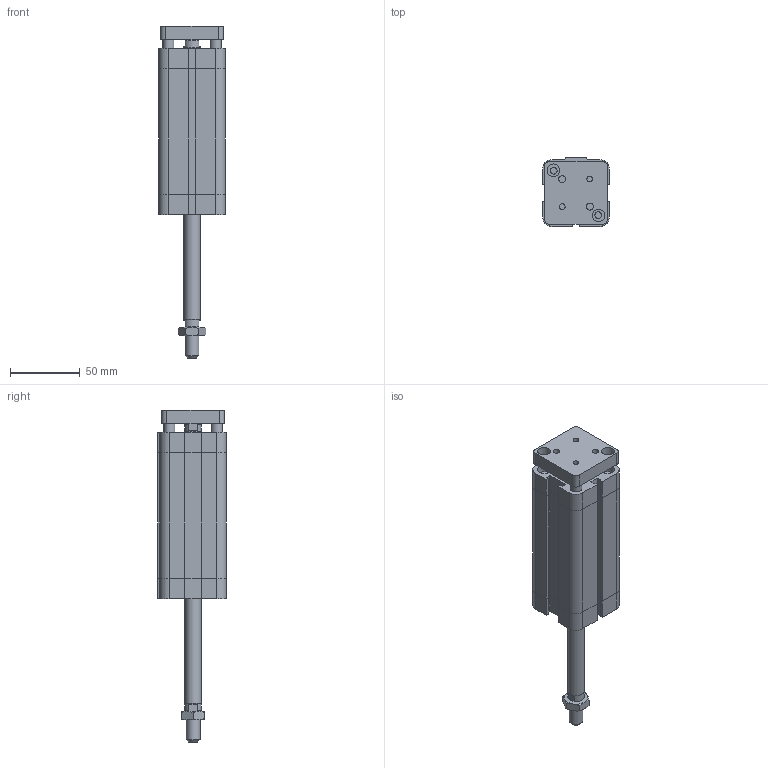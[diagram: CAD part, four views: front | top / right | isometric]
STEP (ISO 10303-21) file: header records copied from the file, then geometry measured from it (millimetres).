
FILE_DESCRIPTION((''),'2;1');
FILE_NAME('I:\Area Tecnica\Disegni\VARIE-3D\Componenti\EUROPE\15##_###_####_09_#\1581_32_0075_09_1.iam.stp','2009-04-20T15:45:03',(''),(''),'Autodesk Inventor 2009','Autodesk Inventor 2009','');
FILE_SCHEMA(('AUTOMOTIVE_DESIGN { 1 0 10303 214 1 1 1 1 }'));
Length unit declared in the file: millimetre
Products named in the file (4): 1581_32_0075_09_1; 1581_32_0075_08_1_C; 1561_32_0075_09_1_SA; DBFM10
Assembly tree (3 placements, depth 2):
  1581_32_0075_09_1
    1581_32_0075_08_1_C
    1561_32_0075_09_1_SA
    DBFM10
Bounding box: 48 x 49.5 x 238.5 mm (x, y, z)
Volume: 284301.1 mm3; surface area: 60633.7 mm2
Topology: 3 solids, 3 shells, 209 faces, 470 edges, 287 vertices
Faces by surface type: plane 120, bspline 45, cylinder 23, cone 21
Full cylindrical faces by diameter (mm): 8 x2, 8.8 x1, 10 x1, 11.7 x2, 12 x1
Entity records: 5963 total; most frequent: CARTESIAN_POINT 1453, DIRECTION 838, ORIENTED_EDGE 834, EDGE_CURVE 417, AXIS2_PLACEMENT_3D 282, EDGE_LOOP 282, VECTOR 274, LINE 274
